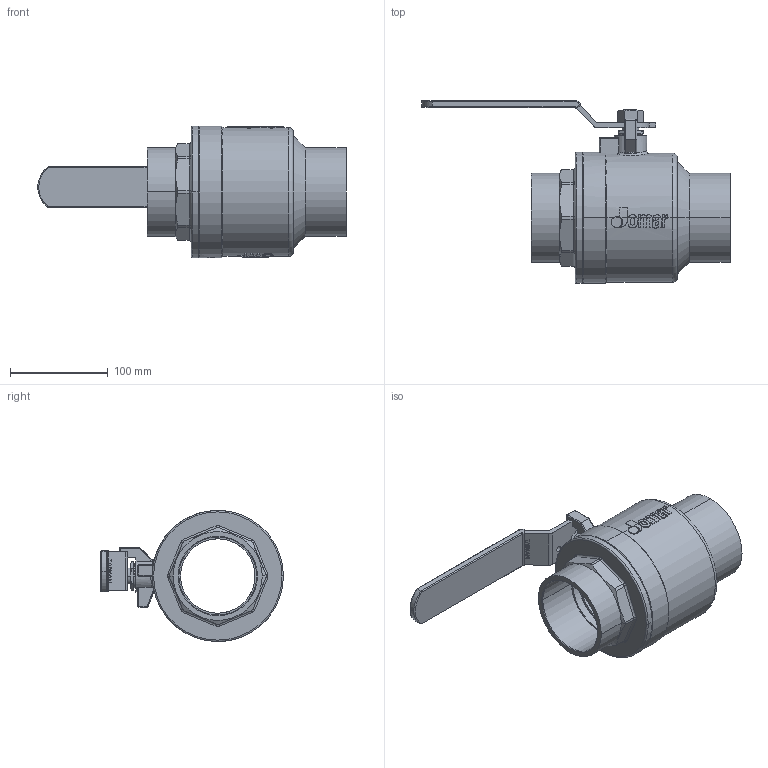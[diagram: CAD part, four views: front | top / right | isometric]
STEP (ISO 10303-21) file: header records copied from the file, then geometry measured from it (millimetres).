
FILE_DESCRIPTION (( 'STEP AP203' ), '1' );
FILE_NAME ('ABL720-無掛鎖-3''''全流量JOMA球閥CxC組合-無插溝-2025.STEP', '2025-06-25T07:14:52', ( '' ), ( '' ), 'SwSTEP 2.0', 'SolidWorks 2018', '' );
FILE_SCHEMA (( 'CONFIG_CONTROL_DESIGN' ));
Length unit declared in the file: millimetre
Products named in the file (13): RBL270; DN65 & DN80-CBL270白色膠套-S-200CSSG; BBL720A-3''''JOMA球閥 CxC帽蓋-無鉛-端面無插溝; ABL720-無掛鎖-3''''全流量JOMA球閥CxC組合-無插溝-2025; DN65 & DN80-CBL719-無掛鎖組合-白色膠套 S200CSSG; CBL270; TBL271; EBL209A; NBL270; EBL209B; GBL210; BBL720-3''''全流量JOMA球閥體-CxC-無鉛-端面無插溝; EBL241
Assembly tree (13 placements, depth 3):
  ABL720-無掛鎖-3''''全流量JOMA球閥CxC組合-無插溝-2025
    BBL720-3''''全流量JOMA球閥體-CxC-無鉛-端面無插溝
    RBL270
    EBL209A
    EBL209B
    GBL210
    BBL720A-3''''JOMA球閥 CxC帽蓋-無鉛-端面無插溝
    DN65 & DN80-CBL719-無掛鎖組合-白色膠套 S200CSSG
      CBL270
      DN65 & DN80-CBL270白色膠套-S-200CSSG
    NBL270
    EBL241  x2
    TBL271
Bounding box: 314.9 x 186.61 x 134 mm (x, y, z)
Volume: 1035872.3 mm3; surface area: 335181.8 mm2
Topology: 12 solids, 12 shells, 2247 faces, 6016 edges, 3962 vertices
Faces by surface type: plane 1168, bspline 673, cylinder 290, cone 62, torus 42, sphere 12
Entity records: 122121 total; most frequent: CARTESIAN_POINT 70207, ORIENTED_EDGE 11964, DIRECTION 7860, EDGE_CURVE 5982, VERTEX_POINT 3944, LINE 3684, VECTOR 3684, EDGE_LOOP 2436
